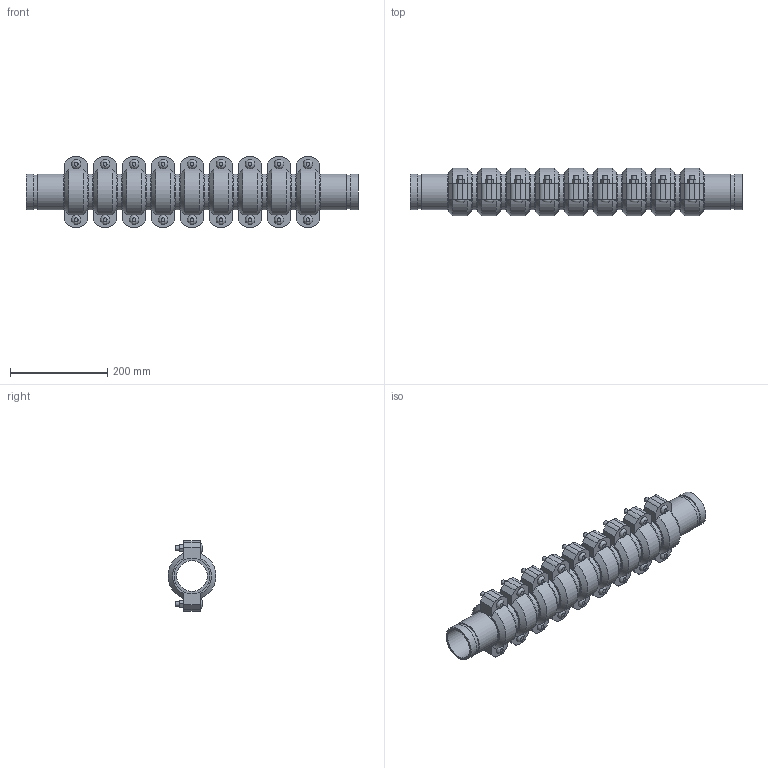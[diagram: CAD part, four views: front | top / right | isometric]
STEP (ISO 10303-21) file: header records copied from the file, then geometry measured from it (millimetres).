
FILE_DESCRIPTION(/* description */ ('VIC SS EXPANSION JOINT 9 COUPLINGS NEUTRAL STYLE 155P (OGS) (POTABLE WATER) ','CAx-IF Rec.Pracs.---Representation and Presentation of Product Manufacturing Information (PMI)---4.0---2014-10-13'),/* implementation_level */ '2;1');
FILE_NAME(/* name */ 'C:\Users\kkamble\AppData\Roaming\Autodesk\ApplicationPlugins\Victaulic.Temp\A561\Victaulic_SS_Expansion Joint_Neutral_9 Couplings_Style 155P (OGS)-Potable Water_9 Coup_Neut_2.5 (65).stp',/* time_stamp */ '2021-07-16T16:39:52+05:00',/* author */ ('kkamble'),/* organization */ ('Victaulic'),/* preprocessor_version */ 'ST-DEVELOPER v17.2',/* originating_system */ 'Autodesk Inventor 2019',/* authorisation */ '');
FILE_SCHEMA (('AP242_MANAGED_MODEL_BASED_3D_ENGINEERING_MIM_LF { 1 0 10303 442 1 1 4 }'));
Length unit declared in the file: inch
Products named in the file (4): 155P-02.5; Nipple-02.5; Nipple-02.5_1; 075-02.5
Assembly tree (19 placements, depth 2):
  155P-02.5
    Nipple-02.5  x2
    Nipple-02.5_1  x8
    075-02.5  x9
Bounding box: 681.99 x 98.22 x 144.27 mm (x, y, z)
Volume: 2546749.2 mm3; surface area: 715529.5 mm2
Topology: 19 solids, 37 shells, 633 faces, 1497 edges, 1050 vertices
Faces by surface type: plane 384, cylinder 195, cone 36, bspline 18
Full cylindrical faces by diameter (mm): 9.525 x36, 11.43 x18, 63.475 x10, 66.675 x9, 69.088 x20, 73.025 x48
Entity records: 2865 total; most frequent: CARTESIAN_POINT 503, DIRECTION 481, ORIENTED_EDGE 386, AXIS2_PLACEMENT_3D 194, EDGE_CURVE 193, VERTEX_POINT 138, EDGE_LOOP 107, LINE 93
